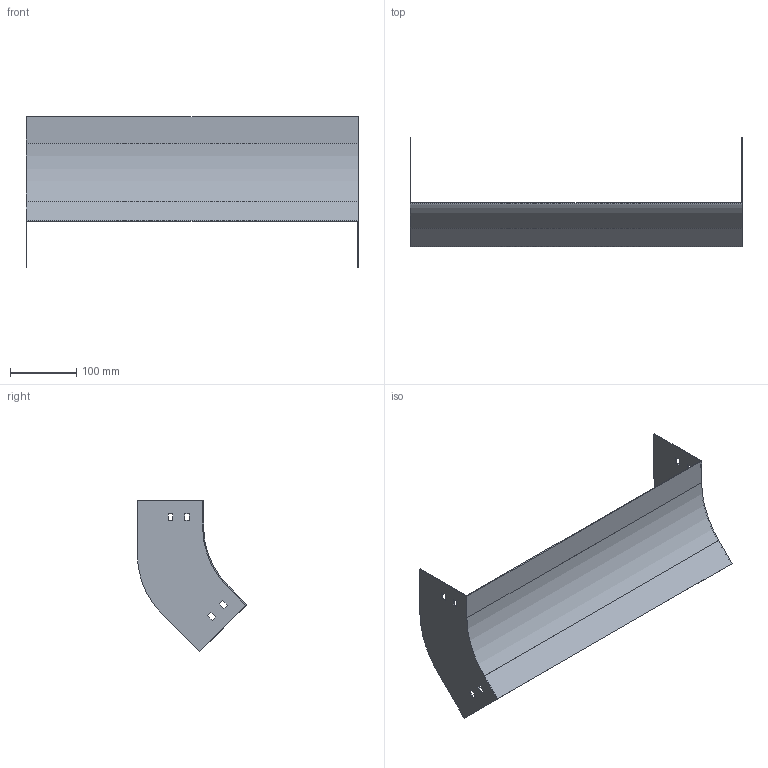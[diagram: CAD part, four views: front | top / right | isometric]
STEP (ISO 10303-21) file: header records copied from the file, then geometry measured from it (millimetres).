
FILE_DESCRIPTION (( 'STEP AP214' ), '1' );
FILE_NAME ('D4_501.step', '2025-07-16T09:07:44', ( '' ), ( '' ), 'SwSTEP 2.0', 'SolidWorks 2023', '' );
FILE_SCHEMA (( 'AUTOMOTIVE_DESIGN' ));
Length unit declared in the file: millimetre
Products named in the file (1): D4_501
Bounding box: 500 x 164.9 x 227.38 mm (x, y, z)
Volume: 199920.9 mm3; surface area: 269841.4 mm2
Topology: 1 solids, 1 shells, 50 faces, 144 edges, 96 vertices
Faces by surface type: plane 46, cylinder 4
Entity records: 1671 total; most frequent: CARTESIAN_POINT 291, ORIENTED_EDGE 288, DIRECTION 254, EDGE_CURVE 144, LINE 136, VECTOR 136, VERTEX_POINT 96, EDGE_LOOP 66
